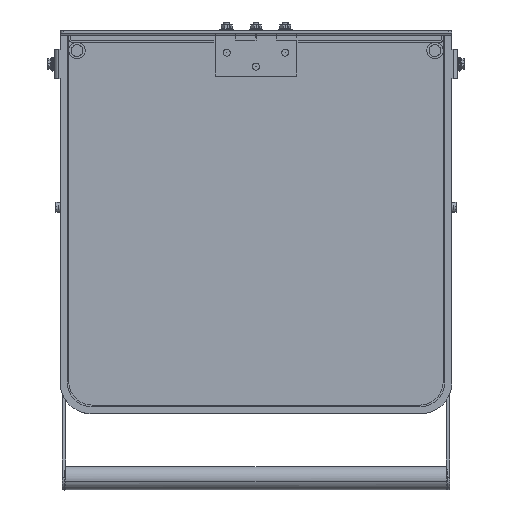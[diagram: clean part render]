
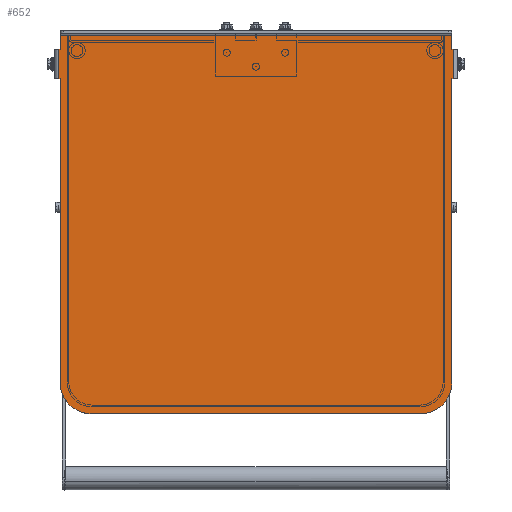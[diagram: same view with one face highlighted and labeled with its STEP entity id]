
A CAD part, top view. The second image highlights one B-rep face of the part: STEP entity #652.
In plain terms, the highlighted planar face has unit normal (0, 0, 1).
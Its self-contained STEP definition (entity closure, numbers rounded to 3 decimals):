
#363=FACE_BOUND('',#1652,.T.);
#364=FACE_BOUND('',#1653,.T.);
#365=FACE_BOUND('',#1654,.T.);
#652=ADVANCED_FACE('',(#1136,#363,#364,#365),#7150,.T.);
#1136=FACE_OUTER_BOUND('',#1651,.T.);
#1651=EDGE_LOOP('',(#2980,#2981,#2982,#2983,#2984,#2985,#2986,#2987,#2988,
#2989,#2990,#2991,#2992,#2993));
#1652=EDGE_LOOP('',(#2994,#2995));
#1653=EDGE_LOOP('',(#2996,#2997));
#1654=EDGE_LOOP('',(#2998,#2999));
#2980=ORIENTED_EDGE('',*,*,#4698,.T.);
#2981=ORIENTED_EDGE('',*,*,#4687,.T.);
#2982=ORIENTED_EDGE('',*,*,#4688,.T.);
#2983=ORIENTED_EDGE('',*,*,#4689,.T.);
#2984=ORIENTED_EDGE('',*,*,#4690,.T.);
#2985=ORIENTED_EDGE('',*,*,#4691,.T.);
#2986=ORIENTED_EDGE('',*,*,#4692,.T.);
#2987=ORIENTED_EDGE('',*,*,#4693,.T.);
#2988=ORIENTED_EDGE('',*,*,#4721,.T.);
#2989=ORIENTED_EDGE('',*,*,#4694,.T.);
#2990=ORIENTED_EDGE('',*,*,#4725,.T.);
#2991=ORIENTED_EDGE('',*,*,#4695,.T.);
#2992=ORIENTED_EDGE('',*,*,#4696,.T.);
#2993=ORIENTED_EDGE('',*,*,#4697,.T.);
#2994=ORIENTED_EDGE('',*,*,#4782,.T.);
#2995=ORIENTED_EDGE('',*,*,#4669,.T.);
#2996=ORIENTED_EDGE('',*,*,#4673,.T.);
#2997=ORIENTED_EDGE('',*,*,#4780,.T.);
#2998=ORIENTED_EDGE('',*,*,#4677,.T.);
#2999=ORIENTED_EDGE('',*,*,#4778,.T.);
#4669=EDGE_CURVE('',#6679,#6678,#6189,.T.);
#4673=EDGE_CURVE('',#6683,#6682,#6191,.T.);
#4677=EDGE_CURVE('',#6687,#6686,#6193,.T.);
#4687=EDGE_CURVE('',#6696,#6697,#5571,.T.);
#4688=EDGE_CURVE('',#6697,#6698,#5572,.T.);
#4689=EDGE_CURVE('',#6698,#6699,#5573,.T.);
#4690=EDGE_CURVE('',#6699,#6700,#5574,.T.);
#4691=EDGE_CURVE('',#6700,#6701,#5575,.T.);
#4692=EDGE_CURVE('',#6701,#6702,#5576,.T.);
#4693=EDGE_CURVE('',#6702,#6703,#5577,.T.);
#4694=EDGE_CURVE('',#6704,#6705,#5578,.T.);
#4695=EDGE_CURVE('',#6706,#6707,#5579,.T.);
#4696=EDGE_CURVE('',#6707,#6708,#5580,.T.);
#4697=EDGE_CURVE('',#6708,#6709,#5581,.T.);
#4698=EDGE_CURVE('',#6709,#6696,#5582,.T.);
#4721=EDGE_CURVE('',#6703,#6704,#6199,.T.);
#4725=EDGE_CURVE('',#6705,#6706,#6201,.T.);
#4778=EDGE_CURVE('',#6686,#6687,#6223,.T.);
#4780=EDGE_CURVE('',#6682,#6683,#6225,.T.);
#4782=EDGE_CURVE('',#6678,#6679,#6227,.T.);
#5571=B_SPLINE_CURVE_WITH_KNOTS('',1,(#14674,#14675),.UNSPECIFIED.,.F.,
 .F.,(2,2),(0.,12.),.UNSPECIFIED.);
#5572=B_SPLINE_CURVE_WITH_KNOTS('',1,(#14676,#14677),.UNSPECIFIED.,.F.,
 .F.,(2,2),(0.,335.),.UNSPECIFIED.);
#5573=B_SPLINE_CURVE_WITH_KNOTS('',1,(#14678,#14679),.UNSPECIFIED.,.F.,
 .F.,(2,2),(0.,12.),.UNSPECIFIED.);
#5574=B_SPLINE_CURVE_WITH_KNOTS('',1,(#14680,#14681),.UNSPECIFIED.,.F.,
 .F.,(2,2),(0.,1.),.UNSPECIFIED.);
#5575=B_SPLINE_CURVE_WITH_KNOTS('',1,(#14682,#14683),.UNSPECIFIED.,.F.,
 .F.,(2,2),(0.,25.),.UNSPECIFIED.);
#5576=B_SPLINE_CURVE_WITH_KNOTS('',1,(#14684,#14685),.UNSPECIFIED.,.F.,
 .F.,(2,2),(0.,1.),.UNSPECIFIED.);
#5577=B_SPLINE_CURVE_WITH_KNOTS('',1,(#14686,#14687),.UNSPECIFIED.,.F.,
 .F.,(2,2),(0.,259.5),.UNSPECIFIED.);
#5578=B_SPLINE_CURVE_WITH_KNOTS('',1,(#14688,#14689),.UNSPECIFIED.,.F.,
 .F.,(2,2),(0.,281.),.UNSPECIFIED.);
#5579=B_SPLINE_CURVE_WITH_KNOTS('',1,(#14690,#14691),.UNSPECIFIED.,.F.,
 .F.,(2,2),(0.,259.5),.UNSPECIFIED.);
#5580=B_SPLINE_CURVE_WITH_KNOTS('',1,(#14692,#14693),.UNSPECIFIED.,.F.,
 .F.,(2,2),(0.,1.),.UNSPECIFIED.);
#5581=B_SPLINE_CURVE_WITH_KNOTS('',1,(#14694,#14695),.UNSPECIFIED.,.F.,
 .F.,(2,2),(0.,25.),.UNSPECIFIED.);
#5582=B_SPLINE_CURVE_WITH_KNOTS('',1,(#14696,#14697),.UNSPECIFIED.,.F.,
 .F.,(2,2),(0.,1.),.UNSPECIFIED.);
#6189=(
BOUNDED_CURVE()
B_SPLINE_CURVE(2,(#14611,#14612,#14613,#14614,#14615),.UNSPECIFIED.,.F.,
 .F.)
B_SPLINE_CURVE_WITH_KNOTS((3,2,3),(-0.236,-0.118,
0.),.UNSPECIFIED.)
CURVE()
GEOMETRIC_REPRESENTATION_ITEM()
RATIONAL_B_SPLINE_CURVE((1.,0.707,1.,0.707,1.))
REPRESENTATION_ITEM('')
);
#6191=(
BOUNDED_CURVE()
B_SPLINE_CURVE(2,(#14625,#14626,#14627,#14628,#14629),.UNSPECIFIED.,.F.,
 .F.)
B_SPLINE_CURVE_WITH_KNOTS((3,2,3),(-0.236,-0.118,
0.),.UNSPECIFIED.)
CURVE()
GEOMETRIC_REPRESENTATION_ITEM()
RATIONAL_B_SPLINE_CURVE((1.,0.707,1.,0.707,1.))
REPRESENTATION_ITEM('')
);
#6193=(
BOUNDED_CURVE()
B_SPLINE_CURVE(2,(#14639,#14640,#14641,#14642,#14643),.UNSPECIFIED.,.F.,
 .F.)
B_SPLINE_CURVE_WITH_KNOTS((3,2,3),(-0.236,-0.118,
0.),.UNSPECIFIED.)
CURVE()
GEOMETRIC_REPRESENTATION_ITEM()
RATIONAL_B_SPLINE_CURVE((1.,0.707,1.,0.707,1.))
REPRESENTATION_ITEM('')
);
#6199=(
BOUNDED_CURVE()
B_SPLINE_CURVE(2,(#14743,#14744,#14745),.UNSPECIFIED.,.F.,.F.)
B_SPLINE_CURVE_WITH_KNOTS((3,3),(-42.412,0.),.UNSPECIFIED.)
CURVE()
GEOMETRIC_REPRESENTATION_ITEM()
RATIONAL_B_SPLINE_CURVE((1.,0.707,1.))
REPRESENTATION_ITEM('')
);
#6201=(
BOUNDED_CURVE()
B_SPLINE_CURVE(2,(#14753,#14754,#14755),.UNSPECIFIED.,.F.,.F.)
B_SPLINE_CURVE_WITH_KNOTS((3,3),(-42.412,0.),.UNSPECIFIED.)
CURVE()
GEOMETRIC_REPRESENTATION_ITEM()
RATIONAL_B_SPLINE_CURVE((1.,0.707,1.))
REPRESENTATION_ITEM('')
);
#6223=(
BOUNDED_CURVE()
B_SPLINE_CURVE(2,(#14891,#14892,#14893,#14894,#14895),.UNSPECIFIED.,.F.,
 .F.)
B_SPLINE_CURVE_WITH_KNOTS((3,2,3),(-0.236,-0.118,
0.),.UNSPECIFIED.)
CURVE()
GEOMETRIC_REPRESENTATION_ITEM()
RATIONAL_B_SPLINE_CURVE((1.,0.707,1.,0.707,1.))
REPRESENTATION_ITEM('')
);
#6225=(
BOUNDED_CURVE()
B_SPLINE_CURVE(2,(#14901,#14902,#14903,#14904,#14905),.UNSPECIFIED.,.F.,
 .F.)
B_SPLINE_CURVE_WITH_KNOTS((3,2,3),(-0.236,-0.118,
0.),.UNSPECIFIED.)
CURVE()
GEOMETRIC_REPRESENTATION_ITEM()
RATIONAL_B_SPLINE_CURVE((1.,0.707,1.,0.707,1.))
REPRESENTATION_ITEM('')
);
#6227=(
BOUNDED_CURVE()
B_SPLINE_CURVE(2,(#14911,#14912,#14913,#14914,#14915),.UNSPECIFIED.,.F.,
 .F.)
B_SPLINE_CURVE_WITH_KNOTS((3,2,3),(-0.236,-0.118,
0.),.UNSPECIFIED.)
CURVE()
GEOMETRIC_REPRESENTATION_ITEM()
RATIONAL_B_SPLINE_CURVE((1.,0.707,1.,0.707,1.))
REPRESENTATION_ITEM('')
);
#6678=VERTEX_POINT('',#14522);
#6679=VERTEX_POINT('',#14523);
#6682=VERTEX_POINT('',#14526);
#6683=VERTEX_POINT('',#14527);
#6686=VERTEX_POINT('',#14530);
#6687=VERTEX_POINT('',#14531);
#6696=VERTEX_POINT('',#14540);
#6697=VERTEX_POINT('',#14541);
#6698=VERTEX_POINT('',#14542);
#6699=VERTEX_POINT('',#14543);
#6700=VERTEX_POINT('',#14544);
#6701=VERTEX_POINT('',#14545);
#6702=VERTEX_POINT('',#14546);
#6703=VERTEX_POINT('',#14547);
#6704=VERTEX_POINT('',#14548);
#6705=VERTEX_POINT('',#14549);
#6706=VERTEX_POINT('',#14550);
#6707=VERTEX_POINT('',#14551);
#6708=VERTEX_POINT('',#14552);
#6709=VERTEX_POINT('',#14553);
#7150=PLANE('',#8118);
#8118=AXIS2_PLACEMENT_3D('',#14146,#8510,$);
#8510=DIRECTION('',(0.,0.,1.));
#14146=CARTESIAN_POINT('',(-202.2,-209.85,1.5));
#14522=CARTESIAN_POINT('',(-25.075,131.25,1.5));
#14523=CARTESIAN_POINT('',(-24.925,131.25,1.5));
#14526=CARTESIAN_POINT('',(24.925,131.25,1.5));
#14527=CARTESIAN_POINT('',(25.075,131.25,1.5));
#14530=CARTESIAN_POINT('',(-0.075,119.25,1.5));
#14531=CARTESIAN_POINT('',(0.075,119.25,1.5));
#14540=CARTESIAN_POINT('',(167.5,134.,1.5));
#14541=CARTESIAN_POINT('',(167.5,146.,1.5));
#14542=CARTESIAN_POINT('',(-167.5,146.,1.5));
#14543=CARTESIAN_POINT('',(-167.5,134.,1.5));
#14544=CARTESIAN_POINT('',(-168.5,134.,1.5));
#14545=CARTESIAN_POINT('',(-168.5,109.,1.5));
#14546=CARTESIAN_POINT('',(-167.5,109.,1.5));
#14547=CARTESIAN_POINT('',(-167.5,-150.5,1.5));
#14548=CARTESIAN_POINT('',(-140.5,-177.5,1.5));
#14549=CARTESIAN_POINT('',(140.5,-177.5,1.5));
#14550=CARTESIAN_POINT('',(167.5,-150.5,1.5));
#14551=CARTESIAN_POINT('',(167.5,109.,1.5));
#14552=CARTESIAN_POINT('',(168.5,109.,1.5));
#14553=CARTESIAN_POINT('',(168.5,134.,1.5));
#14611=CARTESIAN_POINT('',(-24.925,131.25,1.5));
#14612=CARTESIAN_POINT('',(-24.925,131.175,1.5));
#14613=CARTESIAN_POINT('',(-25.,131.175,1.5));
#14614=CARTESIAN_POINT('',(-25.075,131.175,1.5));
#14615=CARTESIAN_POINT('',(-25.075,131.25,1.5));
#14625=CARTESIAN_POINT('',(25.075,131.25,1.5));
#14626=CARTESIAN_POINT('',(25.075,131.175,1.5));
#14627=CARTESIAN_POINT('',(25.,131.175,1.5));
#14628=CARTESIAN_POINT('',(24.925,131.175,1.5));
#14629=CARTESIAN_POINT('',(24.925,131.25,1.5));
#14639=CARTESIAN_POINT('',(0.075,119.25,1.5));
#14640=CARTESIAN_POINT('',(0.075,119.175,1.5));
#14641=CARTESIAN_POINT('',(0.,119.175,1.5));
#14642=CARTESIAN_POINT('',(-0.075,119.175,1.5));
#14643=CARTESIAN_POINT('',(-0.075,119.25,1.5));
#14674=CARTESIAN_POINT('',(167.5,134.,1.5));
#14675=CARTESIAN_POINT('',(167.5,146.,1.5));
#14676=CARTESIAN_POINT('',(167.5,146.,1.5));
#14677=CARTESIAN_POINT('',(-167.5,146.,1.5));
#14678=CARTESIAN_POINT('',(-167.5,146.,1.5));
#14679=CARTESIAN_POINT('',(-167.5,134.,1.5));
#14680=CARTESIAN_POINT('',(-167.5,134.,1.5));
#14681=CARTESIAN_POINT('',(-168.5,134.,1.5));
#14682=CARTESIAN_POINT('',(-168.5,134.,1.5));
#14683=CARTESIAN_POINT('',(-168.5,109.,1.5));
#14684=CARTESIAN_POINT('',(-168.5,109.,1.5));
#14685=CARTESIAN_POINT('',(-167.5,109.,1.5));
#14686=CARTESIAN_POINT('',(-167.5,109.,1.5));
#14687=CARTESIAN_POINT('',(-167.5,-150.5,1.5));
#14688=CARTESIAN_POINT('',(-140.5,-177.5,1.5));
#14689=CARTESIAN_POINT('',(140.5,-177.5,1.5));
#14690=CARTESIAN_POINT('',(167.5,-150.5,1.5));
#14691=CARTESIAN_POINT('',(167.5,109.,1.5));
#14692=CARTESIAN_POINT('',(167.5,109.,1.5));
#14693=CARTESIAN_POINT('',(168.5,109.,1.5));
#14694=CARTESIAN_POINT('',(168.5,109.,1.5));
#14695=CARTESIAN_POINT('',(168.5,134.,1.5));
#14696=CARTESIAN_POINT('',(168.5,134.,1.5));
#14697=CARTESIAN_POINT('',(167.5,134.,1.5));
#14743=CARTESIAN_POINT('',(-167.5,-150.5,1.5));
#14744=CARTESIAN_POINT('',(-167.5,-177.5,1.5));
#14745=CARTESIAN_POINT('',(-140.5,-177.5,1.5));
#14753=CARTESIAN_POINT('',(140.5,-177.5,1.5));
#14754=CARTESIAN_POINT('',(167.5,-177.5,1.5));
#14755=CARTESIAN_POINT('',(167.5,-150.5,1.5));
#14891=CARTESIAN_POINT('',(-0.075,119.25,1.5));
#14892=CARTESIAN_POINT('',(-0.075,119.325,1.5));
#14893=CARTESIAN_POINT('',(0.,119.325,1.5));
#14894=CARTESIAN_POINT('',(0.075,119.325,1.5));
#14895=CARTESIAN_POINT('',(0.075,119.25,1.5));
#14901=CARTESIAN_POINT('',(24.925,131.25,1.5));
#14902=CARTESIAN_POINT('',(24.925,131.325,1.5));
#14903=CARTESIAN_POINT('',(25.,131.325,1.5));
#14904=CARTESIAN_POINT('',(25.075,131.325,1.5));
#14905=CARTESIAN_POINT('',(25.075,131.25,1.5));
#14911=CARTESIAN_POINT('',(-25.075,131.25,1.5));
#14912=CARTESIAN_POINT('',(-25.075,131.325,1.5));
#14913=CARTESIAN_POINT('',(-25.,131.325,1.5));
#14914=CARTESIAN_POINT('',(-24.925,131.325,1.5));
#14915=CARTESIAN_POINT('',(-24.925,131.25,1.5));
